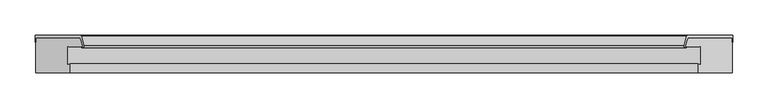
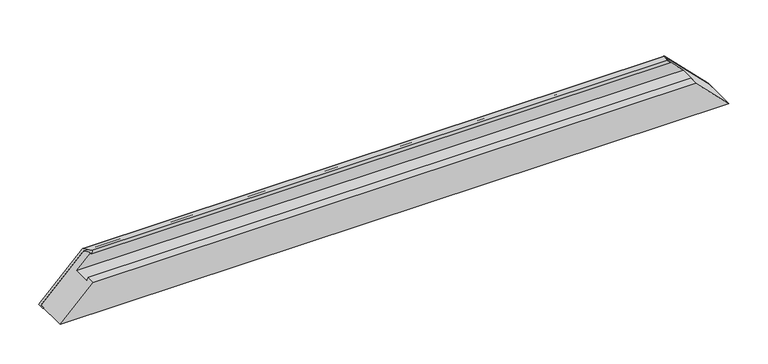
"""IFC4 building model written with IfcOpenShell, lengths in millimetres: proxy geometry, Weiku - Montante - Caixilho 02.2.01.005 : Weiku - Montante - Caixilho 02.2.01.005."""

import ifcopenshell
import ifcopenshell.guid

model = None  # the IFC model being written
_history = None  # IfcOwnerHistory: only IFC2X3 demands one
_inside = {}  # id of a spatial element -> (the spatial element, [elements in it])
_under = {}  # id of a project, library or spatial element -> (it, [spatial elements below it])
_declared = {}  # id of a project -> (the project, [libraries it declares])
_typed = {}  # id of a type object -> (the type object, [elements of that type])
_made_of = {}  # id of a material, layer set ... -> (it, [elements and type objects made of it])


def new_model(schema):
    """Start an empty IFC model of exactly this schema.

    Asked for "IFC4X3", IfcOpenShell would pick the latest addendum, in which some entities
    have other attributes; the version numbers below select the first issue.
    IFC2X3 requires an IfcOwnerHistory on every rooted entity: one is made here for all.
    """
    global model, _history
    if schema == "IFC4X3":
        model = ifcopenshell.file(schema_version=(4, 3, 0, 0))
    else:
        model = ifcopenshell.file(schema=schema)
    _inside.clear()
    _under.clear()
    _declared.clear()
    _typed.clear()
    _made_of.clear()
    _history = None
    if model.schema == "IFC2X3":
        org = make("IfcOrganization", Name="unknown")
        user = make(
            "IfcPersonAndOrganization",
            ThePerson=make("IfcPerson", FamilyName="unknown"),
            TheOrganization=org,
        )
        app = make(
            "IfcApplication",
            ApplicationDeveloper=org,
            Version="unknown",
            ApplicationFullName="unknown",
            ApplicationIdentifier="unknown",
        )
        _history = make(
            "IfcOwnerHistory",
            OwningUser=user,
            OwningApplication=app,
            ChangeAction="ADDED",
            CreationDate=0,
        )
    return model


def make(cls, **values):
    """One entity of the class cls with the attributes given. An attribute that is None is left unset."""
    return model.create_entity(
        cls, **{name: value for name, value in values.items() if value is not None}
    )


def rooted(cls, **values):
    """An entity with a GlobalId (a new one), such as an element, a storey or a relation."""
    return make(cls, GlobalId=ifcopenshell.guid.new(), OwnerHistory=_history, **values)


def si_unit(unit_type, name, prefix=None):
    """IfcSIUnit, for example si_unit("LENGTHUNIT", "METRE", prefix="MILLI")."""
    return make("IfcSIUnit", UnitType=unit_type, Prefix=prefix, Name=name)


def assignment(units):
    """IfcUnitAssignment: the units of a project."""
    return None if units is None else make("IfcUnitAssignment", Units=units)


def point(xyz):
    """IfcCartesianPoint."""
    return None if xyz is None else make("IfcCartesianPoint", Coordinates=xyz)


def direction(xyz):
    """IfcDirection."""
    return None if xyz is None else make("IfcDirection", DirectionRatios=xyz)


def frame(location, z_axis=None, x_axis=None):
    """IfcAxis2Placement3D, a coordinate frame: its origin and axes. An axis left out is left unset."""
    return make(
        "IfcAxis2Placement3D",
        Location=point(location),
        Axis=direction(z_axis),
        RefDirection=direction(x_axis),
    )


def origin():
    """The frame at (0, 0, 0) with its axes left unset."""
    return frame((0.0, 0.0, 0.0))


def place(relative_to, where):
    """IfcLocalPlacement: puts the frame where relative to a parent placement (None: the world)."""
    return make(
        "IfcLocalPlacement", PlacementRelTo=relative_to, RelativePlacement=where
    )


def context(
    kind, dimensions, precision=None, world=None, true_north=None, identifier=None
):
    """IfcGeometricRepresentationContext, for example the 3D "Model" context."""
    return make(
        "IfcGeometricRepresentationContext",
        ContextIdentifier=identifier,
        ContextType=kind,
        CoordinateSpaceDimension=dimensions,
        Precision=precision,
        WorldCoordinateSystem=world,
        TrueNorth=true_north,
    )


def project(units=None, contexts=None):
    """IfcProject with its units and contexts."""
    return rooted(
        "IfcProject",
        Name="project",
        RepresentationContexts=contexts,
        UnitsInContext=assignment(units),
    )


def spatial(cls, under=None, at=None, **own):
    """A site, building, storey or space (cls), placed at a placement, below another one or the project."""
    s = rooted(cls, ObjectPlacement=at, **own)
    if under is not None:
        _under.setdefault(under.id(), (under, []))[1].append(s)
    return s


def polyline(points):
    """IfcPolyline through the points."""
    return make("IfcPolyline", Points=[point(p) for p in points])


def ellipse_curve(where, semi_axis1, semi_axis2):
    """IfcEllipse in the frame where."""
    return make(
        "IfcEllipse", Position=where, SemiAxis1=semi_axis1, SemiAxis2=semi_axis2
    )


def shape(context_of_items, identifier, shape_type, items):
    """IfcShapeRepresentation: the items that make up one representation, for example the "Body"."""
    return make(
        "IfcShapeRepresentation",
        ContextOfItems=context_of_items,
        RepresentationIdentifier=identifier,
        RepresentationType=shape_type,
        Items=items,
    )


def source(mapping_origin, context_of_items, identifier, shape_type, items):
    """IfcRepresentationMap: a shape defined once, which mapped items show again and again."""
    return make(
        "IfcRepresentationMap",
        MappingOrigin=mapping_origin,
        MappedRepresentation=shape(context_of_items, identifier, shape_type, items),
    )


def transform(
    local_origin,
    x_axis=None,
    y_axis=None,
    z_axis=None,
    scale=None,
    scale2=None,
    scale3=None,
    uniform=True,
):
    """IfcCartesianTransformationOperator3D, or its non-uniform kind. x_axis, y_axis, z_axis: its Axis1, 2, 3."""
    if uniform:
        return make(
            "IfcCartesianTransformationOperator3D",
            Axis1=direction(x_axis),
            Axis2=direction(y_axis),
            LocalOrigin=point(local_origin),
            Scale=scale,
            Axis3=direction(z_axis),
        )
    return make(
        "IfcCartesianTransformationOperator3DnonUniform",
        Axis1=direction(x_axis),
        Axis2=direction(y_axis),
        LocalOrigin=point(local_origin),
        Scale=scale,
        Axis3=direction(z_axis),
        Scale2=scale2,
        Scale3=scale3,
    )


def mapped(mapping_source, mapping_target):
    """IfcMappedItem: shows the shape of a source again, moved by a transform."""
    return make(
        "IfcMappedItem", MappingSource=mapping_source, MappingTarget=mapping_target
    )


def made_of(thing, what):
    """Note that an element or type object is made of a material, layer set ...; save() writes the relation."""
    if what is not None:
        _made_of.setdefault(what.id(), (what, []))[1].append(thing)
    return thing


def element(
    cls,
    number,
    at=None,
    inside=None,
    cuts=None,
    type_object=None,
    material=None,
    context=None,
    identifier="Body",
    shape_type=None,
    held_by="IfcProductDefinitionShape",
    body=None,
    shapes=None,
    **own,
):
    """One element of the class cls, such as IfcWall. Its Tag is "e" and its number.

    at: its placement. inside: the storey or other place that contains it. cuts: it is an
    opening in that element (IfcRelVoidsElement). A single representation is given by context,
    identifier, shape_type and body (its items); several are given by shapes. held_by: the class
    of the entity that holds the representations. save() writes the other relations.
    """
    e = rooted(cls, Tag="e%d" % number, ObjectPlacement=at, **own)
    if body is not None:
        shapes = [shape(context, identifier, shape_type, body)]
    if shapes is not None:
        e.Representation = make(held_by, Representations=shapes)
    if inside is not None:
        _inside.setdefault(inside.id(), (inside, []))[1].append(e)
    if cuts is not None:
        rooted(
            "IfcRelVoidsElement", RelatingBuildingElement=cuts, RelatedOpeningElement=e
        )
    if type_object is not None:
        _typed.setdefault(type_object.id(), (type_object, []))[1].append(e)
    return made_of(e, material)


def aggregate(whole, parts):
    """IfcRelAggregates: a whole, such as a stair, and the parts it consists of."""
    return rooted("IfcRelAggregates", RelatingObject=whole, RelatedObjects=parts)


def save(model, path):
    """Write the relations noted so far, then the file.

    IfcRelAggregates (storeys below a building ...), IfcRelContainedInSpatialStructure (elements
    in a storey), IfcRelDefinesByType, IfcRelAssociatesMaterial and IfcRelDeclares: one each for
    every whole, place, type object, material and project.
    """
    for whole, parts in _under.values():
        aggregate(whole, parts)
    for where, things in _inside.values():
        rooted(
            "IfcRelContainedInSpatialStructure",
            RelatedElements=things,
            RelatingStructure=where,
        )
    for kind, things in _typed.values():
        rooted("IfcRelDefinesByType", RelatedObjects=things, RelatingType=kind)
    for what, things in _made_of.values():
        rooted("IfcRelAssociatesMaterial", RelatedObjects=things, RelatingMaterial=what)
    for by, libraries in _declared.values():
        rooted("IfcRelDeclares", RelatingContext=by, RelatedDefinitions=libraries)
    model.write(path)


def plane_surface(at):
    """IfcPlane: the flat surface through the origin of the frame at, square to its z axis."""
    return make("IfcPlane", Position=at)


def cylinder_surface(at, radius):
    """IfcCylindricalSurface: all points at the distance radius from the z axis of the frame at."""
    return make("IfcCylindricalSurface", Position=at, Radius=radius)


def revolved_surface(curve, axis_point, axis_direction):
    """IfcSurfaceOfRevolution: the curve turned about the line through axis_point along axis_direction."""
    return make(
        "IfcSurfaceOfRevolution",
        SweptCurve=make("IfcArbitraryOpenProfileDef", ProfileType="CURVE", Curve=curve),
        AxisPosition=make("IfcAxis1Placement", Location=point(axis_point), Axis=direction(axis_direction)),
    )


def advanced_brep(points, edges, surfaces, faces):
    """IfcAdvancedBrep: a solid bounded by faces that lie on surfaces and meet in shared edges.

    An edge is (start, end): straight between two places in points (the first is 0);
    or (start, end, curve); or (start, end, curve, False) where it runs against its curve.
    A face is (place in surfaces, loops), or (place, loops, False) where it looks against
    its surface's normal. A loop lists edges by number (the first is 1), with a minus sign
    where the edge is run from its end to its start. The first loop is the outer one.
    """
    corners = [point(p) for p in points]
    vertices = [make("IfcVertexPoint", VertexGeometry=c) for c in corners]
    made = []
    for start, end, *more in edges:
        made.append(
            make(
                "IfcEdgeCurve",
                EdgeStart=vertices[start],
                EdgeEnd=vertices[end],
                EdgeGeometry=more[0] if more else make("IfcPolyline", Points=[corners[start], corners[end]]),
                SameSense=more[1] if len(more) > 1 else True,
            )
        )
    hull = []
    for where, loops, *sense in faces:
        bounds = []
        for j, loop in enumerate(loops):
            ring = [make("IfcOrientedEdge", EdgeElement=made[abs(k) - 1], Orientation=k > 0) for k in loop]
            bounds.append(
                make(
                    "IfcFaceOuterBound" if j == 0 else "IfcFaceBound",
                    Bound=make("IfcEdgeLoop", EdgeList=ring),
                    Orientation=True,
                )
            )
        hull.append(make("IfcAdvancedFace", Bounds=bounds, FaceSurface=surfaces[where], SameSense=sense[0] if sense else True))
    return make("IfcAdvancedBrep", Outer=make("IfcClosedShell", CfsFaces=hull))


def generic_models_988a070c(model_context):
    return source(origin(), model_context, "Body", "AdvancedBrep", [
        advanced_brep(
        [(433.4663236, 4.0, 64.0336764), (432.5003978, 3.258819, 64.9996022), (428.6863753, -10.9753067, 68.8136247), (431.3909676, -14.5, 66.1090324), (431.3909676, -12.5, 66.1090324), (430.618227, -11.4929448, 66.881773), (433.1019557, -2.2235429, 64.3980443), (435.9997332, 0.0, 61.5002668), (497.5, 0.0, 0.0), (497.5, -6.4862095, 0.0), (498.5, -6.4862095, -1.0), (498.5, 4.0, -1.0), (-498.5, 4.0, -1.0), (-498.5, -6.4862095, -1.0), (-497.5, -6.4862095, 0.0), (-497.5, 0.0, 0.0), (-435.9997332, 0.0, 61.5002668), (-433.1019557, -2.2235429, 64.3980443), (-430.618227, -11.4929448, 66.881773), (-431.3909676, -12.5, 66.1090324), (-431.3909676, -14.5, 66.1090324), (-428.6863753, -10.9753067, 68.8136247), (-432.5003978, 3.258819, 64.9996022), (-433.4663236, 4.0, 64.0336764)],
        [
            (0, 1, ellipse_curve(frame((433.4663236, 3.0, 64.0336764), z_axis=(0.707106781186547, 0.0, 0.7071067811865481), x_axis=(-0.7071067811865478, 0.0, 0.707106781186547)), 1.4142136, 1.0)),
            (1, 2),
            (2, 3, ellipse_curve(frame((431.3909676, -11.7, 66.1090324), z_axis=(0.707106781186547, 0.0, 0.7071067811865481), x_axis=(-0.7071067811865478, 0.0, 0.707106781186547)), 3.959798, 2.8)),
            (3, 4),
            (4, 5, ellipse_curve(frame((431.3909676, -11.7, 66.1090324), z_axis=(-0.707106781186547, 0.0, -0.7071067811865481), x_axis=(0.7071067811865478, 0.0, -0.707106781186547)), 1.1313708, 0.8)),
            (5, 6),
            (6, 7, ellipse_curve(frame((435.9997332, -3.0, 61.5002668), z_axis=(-0.707106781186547, 0.0, -0.7071067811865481), x_axis=(0.7071067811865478, 0.0, -0.707106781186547)), 4.2426407, 3.0)),
            (7, 8),
            (8, 9),
            (9, 10),
            (10, 11),
            (11, 0),
            (12, 13),
            (13, 14),
            (14, 15),
            (15, 16),
            (16, 17, ellipse_curve(frame((-435.9997332, -3.0, 61.5002668), z_axis=(0.7071067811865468, 0.0, -0.7071067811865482), x_axis=(0.7071067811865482, 0.0, 0.7071067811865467)), 4.2426407, 3.0)),
            (17, 18),
            (18, 19, ellipse_curve(frame((-431.3909676, -11.7, 66.1090324), z_axis=(0.7071067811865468, 0.0, -0.7071067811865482), x_axis=(0.7071067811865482, 0.0, 0.7071067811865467)), 1.1313708, 0.8)),
            (19, 20),
            (20, 21, ellipse_curve(frame((-431.3909676, -11.7, 66.1090324), z_axis=(-0.7071067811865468, 0.0, 0.7071067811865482), x_axis=(-0.7071067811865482, 0.0, -0.7071067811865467)), 3.959798, 2.8)),
            (21, 22),
            (22, 23, ellipse_curve(frame((-433.4663236, 3.0, 64.0336764), z_axis=(-0.7071067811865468, 0.0, 0.7071067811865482), x_axis=(-0.7071067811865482, 0.0, -0.7071067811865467)), 1.4142136, 1.0)),
            (23, 12),
            (11, 12),
            (23, 0),
            (22, 1),
            (21, 2),
            (20, 3),
            (19, 4),
            (18, 5),
            (17, 6),
            (16, 7),
            (15, 8),
            (14, 9),
            (13, 10),
        ],
        [
            plane_surface(frame((427.5, 15.0, 70.0), z_axis=(0.707106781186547, 0.0, 0.7071067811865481), x_axis=(0.0, -1.0, 0.0))),
            plane_surface(frame((-567.5, 15.0, -70.0), z_axis=(-0.7071067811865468, 0.0, 0.7071067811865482), x_axis=(0.0, -1.0, 0.0))),
            plane_surface(frame((-500.3284271, 4.0, -1.0), z_axis=(0.0, 1.0, 0.0), x_axis=(1.0, 0.0, 0.0))),
            cylinder_surface(frame((-500.3284271, 3.0, 64.0336764), z_axis=(-1.0, 0.0, 0.0), x_axis=(0.0, -1.0, 0.0)), 1.0),
            plane_surface(frame((-500.3284271, 3.258819, 64.9996022), z_axis=(0.0, 0.25881904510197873, 0.9659258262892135), x_axis=(1.0, 0.0, 0.0))),
            cylinder_surface(frame((-500.3284271, -11.7, 66.1090324), z_axis=(-1.0, 0.0, 0.0), x_axis=(0.0, -1.0, 0.0)), 2.8),
            plane_surface(frame((-500.3284271, -14.5, 66.1090324), z_axis=(0.0, 0.0, -1.0), x_axis=(1.0, 0.0, 0.0))),
            revolved_surface(polyline([(432.1909675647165, -12.5, 66.1090324), (-432.19096756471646, -12.5, 66.1090324)]), (-500.3284271, -11.7, 66.1090324), (1.0, 0.0, 0.0)),
            plane_surface(frame((-500.3284271, -11.4929448, 66.881773), z_axis=(0.0, -0.2588190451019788, -0.9659258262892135), x_axis=(1.0, 0.0, 0.0))),
            revolved_surface(polyline([(438.99973320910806, -6.0, 61.5002668), (-438.999733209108, -6.0, 61.5002668)]), (-500.3284271, -3.0, 61.5002668), (1.0, 0.0, 0.0)),
            plane_surface(frame((-500.3284271, 0.0, 61.5002668), z_axis=(0.0, -1.0, 0.0), x_axis=(1.0, 0.0, 0.0))),
            plane_surface(frame((-500.3284271, 0.0, 0.0), z_axis=(0.0, 0.0, 1.0), x_axis=(1.0, 0.0, 0.0))),
            plane_surface(frame((-500.3284271, -6.4862095, 0.0), z_axis=(0.0, -1.0, 0.0), x_axis=(1.0, 0.0, 0.0))),
            plane_surface(frame((-500.3284271, -6.4862095, -1.0), z_axis=(0.0, 0.0, -1.0), x_axis=(1.0, 0.0, 0.0))),
        ],
        [
            (0, [[1, 2, 3, 4, 5, 6, 7, 8, 9, 10, 11, 12]]),
            (1, [[13, 14, 15, 16, 17, 18, 19, 20, 21, 22, 23, 24]]),
            (2, [[25, -24, 26, -12]]),
            (3, [[-26, -23, 27, -1]]),
            (4, [[-27, -22, 28, -2]]),
            (5, [[-28, -21, 29, -3]]),
            (6, [[-29, -20, 30, -4]]),
            (7, [[-30, -19, 31, -5]]),
            (8, [[-31, -18, 32, -6]]),
            (9, [[-32, -17, 33, -7]]),
            (10, [[-33, -16, 34, -8]]),
            (11, [[-34, -15, 35, -9]]),
            (12, [[-35, -14, 36, -10]]),
            (13, [[-36, -13, -25, -11]]),
        ],
    ),
        advanced_brep(
        [(-451.5, -12.5, 46.0), (451.5, -12.5, 46.0), (431.3909676, -12.5, 66.1090324), (-431.3909676, -12.5, 66.1090324), (-451.5, -37.8314286, 46.0), (451.5, -37.8314286, 46.0), (-448.5, -37.027581, 49.0), (448.5, -37.027581, 49.0), (-448.5, -50.0, 49.0), (448.5, -50.0, 49.0), (497.5, -50.0, 0.0), (-497.5, -50.0, 0.0), (-497.5, 0.0, 0.0), (497.5, 0.0, 0.0), (-435.9997332, 0.0, 61.5002668), (435.9997332, 0.0, 61.5002668), (-430.618227, -11.4929448, 66.881773), (430.618227, -11.4929448, 66.881773), (433.1019557, -2.2235429, 64.3980443), (-433.1019557, -2.2235429, 64.3980443)],
        [
            (0, 1),
            (1, 2),
            (2, 3),
            (3, 0),
            (4, 5),
            (5, 1),
            (0, 4),
            (6, 7),
            (7, 5),
            (4, 6),
            (8, 9),
            (9, 7),
            (6, 8),
            (10, 9),
            (8, 11),
            (11, 10),
            (11, 12),
            (12, 13),
            (13, 10),
            (12, 14),
            (14, 15),
            (15, 13),
            (16, 17),
            (17, 18),
            (18, 19),
            (19, 16),
            (3, 16, ellipse_curve(frame((-431.3909676, -11.7, 66.1090324), z_axis=(-0.7071067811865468, 0.0, 0.7071067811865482), x_axis=(-0.7071067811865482, 0.0, -0.7071067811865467)), 1.1313708, 0.8)),
            (19, 14, ellipse_curve(frame((-435.9997332, -3.0, 61.5002668), z_axis=(-0.7071067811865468, 0.0, 0.7071067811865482), x_axis=(-0.7071067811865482, 0.0, -0.7071067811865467)), 4.2426407, 3.0)),
            (15, 18, ellipse_curve(frame((435.9997332, -3.0, 61.5002668), z_axis=(0.707106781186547, 0.0, 0.7071067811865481), x_axis=(-0.7071067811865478, 0.0, 0.707106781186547)), 4.2426407, 3.0)),
            (17, 2, ellipse_curve(frame((431.3909676, -11.7, 66.1090324), z_axis=(0.707106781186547, 0.0, 0.7071067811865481), x_axis=(-0.7071067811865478, 0.0, 0.707106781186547)), 1.1313708, 0.8)),
        ],
        [
            plane_surface(frame((-497.5, -12.5, 66.1090324), z_axis=(0.0, -1.0, 0.0), x_axis=(1.0, 0.0, 0.0))),
            plane_surface(frame((-497.5, -12.5, 46.0), z_axis=(0.0, 0.0, 1.0), x_axis=(1.0, 0.0, 0.0))),
            plane_surface(frame((-497.5, -37.8314286, 46.0), z_axis=(0.0, 0.9659258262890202, -0.2588190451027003), x_axis=(1.0, 0.0, 0.0))),
            plane_surface(frame((-497.5, -37.027581, 49.0), z_axis=(0.0, 0.0, 1.0), x_axis=(1.0, 0.0, 0.0))),
            plane_surface(frame((-497.5, -50.0, 49.0), z_axis=(0.0, -1.0, 0.0), x_axis=(1.0, 0.0, 0.0))),
            plane_surface(frame((-497.5, -50.0, 0.0), z_axis=(0.0, 0.0, -1.0), x_axis=(1.0, 0.0, 0.0))),
            plane_surface(frame((-497.5, 0.0, 0.0), z_axis=(0.0, 1.0, 0.0), x_axis=(1.0, 0.0, 0.0))),
            plane_surface(frame((-497.5, -2.2235429, 64.3980443), z_axis=(0.0, 0.2588190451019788, 0.9659258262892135), x_axis=(1.0, 0.0, 0.0))),
            plane_surface(frame((-567.5, 15.0, -70.0), z_axis=(-0.7071067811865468, 0.0, 0.7071067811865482), x_axis=(0.0, -1.0, 0.0))),
            plane_surface(frame((427.5, 15.0, 70.0), z_axis=(0.707106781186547, 0.0, 0.7071067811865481), x_axis=(0.0, -1.0, 0.0))),
            cylinder_surface(frame((-497.5, -11.7, 66.1090324), z_axis=(-1.0, 0.0, 0.0), x_axis=(0.0, -1.0, 0.0)), 0.8),
            cylinder_surface(frame((-497.5, -3.0, 61.5002668), z_axis=(-1.0, 0.0, 0.0), x_axis=(0.0, -1.0, 0.0)), 3.0),
        ],
        [
            (0, [[1, 2, 3, 4]]),
            (1, [[5, 6, -1, 7]]),
            (2, [[8, 9, -5, 10]]),
            (3, [[11, 12, -8, 13]]),
            (4, [[14, -11, 15, 16]]),
            (5, [[17, 18, 19, -16]]),
            (6, [[20, 21, 22, -18]]),
            (7, [[23, 24, 25, 26]]),
            (8, [[27, -26, 28, -20, -17, -15, -13, -10, -7, -4]]),
            (9, [[-6, -9, -12, -14, -19, -22, 29, -24, 30, -2]]),
            (10, [[-3, -30, -23, -27]]),
            (11, [[-25, -29, -21, -28]]),
        ],
    ),
    ])


if __name__ == "__main__":
    model = new_model("IFC4")
    model_context = context("Model", 3, world=origin())
    ifc_project = project(units=[si_unit("LENGTHUNIT", "METRE", prefix="MILLI")], contexts=[model_context])
    site = spatial("IfcSite", under=ifc_project)
    building = spatial("IfcBuilding", under=site)
    placement = place(None, origin())
    generic_models_shape = generic_models_988a070c(model_context)
    element("IfcBuildingElementProxy", 1, Name="Weiku - Montante - Caixilho 02.2.01.005 : Weiku - Montante - Caixilho 02.2.01.005", ObjectType="Weiku - Montante - Caixilho 02.2.01.005 : Weiku - Montante - Caixilho 02.2.01.005", at=placement, inside=building, context=model_context, shape_type="MappedRepresentation", body=[
        mapped(generic_models_shape, transform((0.0, 0.0, 0.0), x_axis=(1.0, 0.0, 0.0), y_axis=(0.0, 1.0, 0.0), z_axis=(0.0, 0.0, 1.0))),
    ])
    save(model, "model.ifc")
